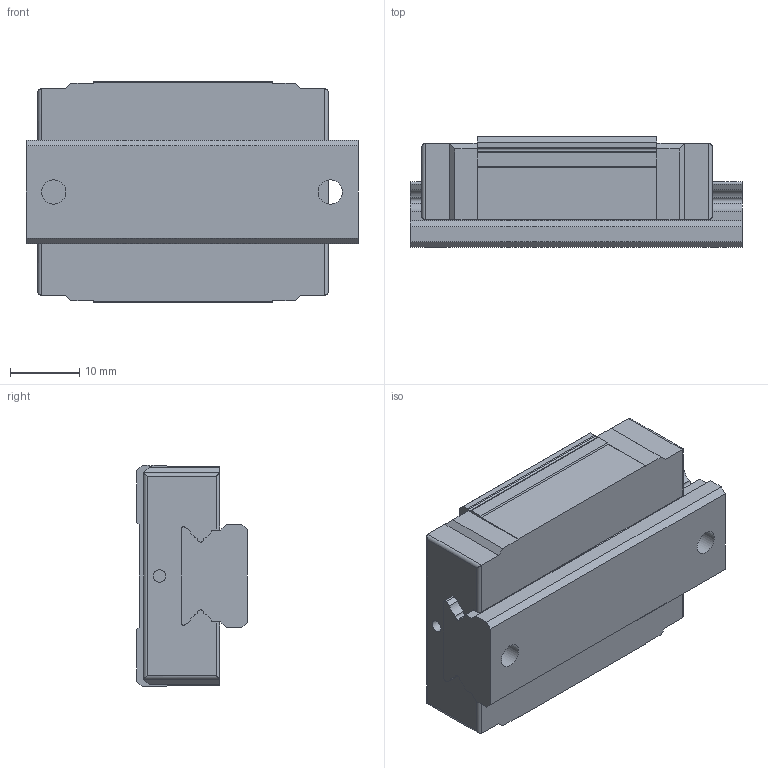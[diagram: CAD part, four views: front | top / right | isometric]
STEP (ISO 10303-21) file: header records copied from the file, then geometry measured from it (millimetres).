
FILE_DESCRIPTION( ( 'STEP AP214' ), '1' );
FILE_NAME( 'G:/品牌/AZI工艺/滑块/GGC/GGC15BA.stp', '2024-01-19T03:36:52', ( 'License CC BY-ND 4.0' ), ( 'CADENAS' ), ' ', 'PARTsolutions', ' ' );
FILE_SCHEMA( ( 'AUTOMOTIVE_DESIGN { 1 0 10303 214 1 1 1 1 }' ) );
Length unit declared in the file: millimetre
Products named in the file (3): ZCE16-48-(22.7-0-0); _ZTCE16-48; _ZZCE16
Assembly tree (2 placements, depth 2):
  ZCE16-48-(22.7-0-0)
    _ZTCE16-48
    _ZZCE16
Bounding box: 48 x 16 x 32 mm (x, y, z)
Volume: 17861 mm3; surface area: 7969.5 mm2
Topology: 2 solids, 2 shells, 108 faces, 280 edges, 180 vertices
Faces by surface type: plane 61, cylinder 39, cone 8
Full cylindrical faces by diameter (mm): 1.8 x2, 2.459 x4, 3.5 x2, 6 x2
Entity records: 4094 total; most frequent: DIRECTION 554, CARTESIAN_POINT 549, ORIENTED_EDGE 516, EDGE_CURVE 258, AXIS2_PLACEMENT_3D 185, LINE 184, VECTOR 184, VERTEX_POINT 180
